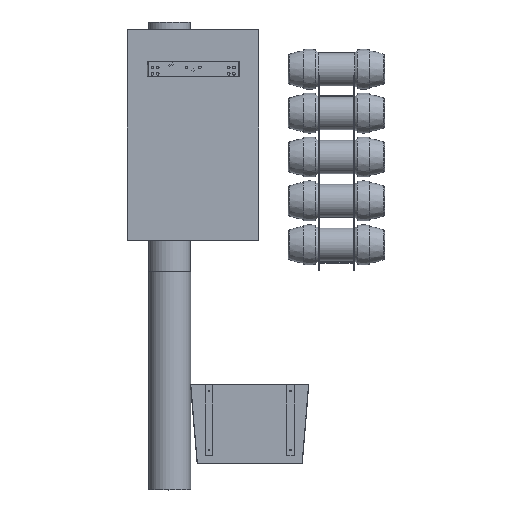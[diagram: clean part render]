
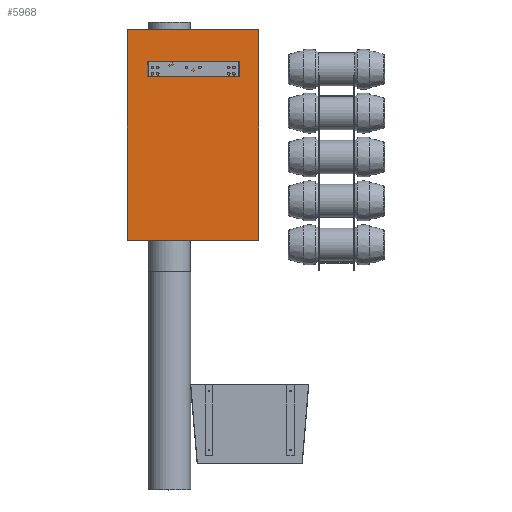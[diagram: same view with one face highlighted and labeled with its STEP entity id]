
A CAD part, top view. The second image highlights one B-rep face of the part: STEP entity #5968.
In plain terms, the highlighted planar face has unit normal (0, 0, 1) as drawn and (-1, 0, 0) by its records, which use the part's own axes.
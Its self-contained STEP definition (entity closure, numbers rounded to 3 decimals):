
#450=PLANE('',#6556);
#682=FACE_OUTER_BOUND('',#1028,.T.);
#1028=EDGE_LOOP('',(#4216,#4217,#4218,#4219));
#1423=LINE('',#8331,#2041);
#1431=LINE('',#8356,#2049);
#1432=LINE('',#8358,#2050);
#1433=LINE('',#8359,#2051);
#2041=VECTOR('',#6947,10.);
#2049=VECTOR('',#6971,10.);
#2050=VECTOR('',#6974,10.);
#2051=VECTOR('',#6975,10.);
#2742=VERTEX_POINT('',#8327);
#2744=VERTEX_POINT('',#8330);
#2750=VERTEX_POINT('',#8349);
#2753=VERTEX_POINT('',#8354);
#3321=EDGE_CURVE('',#2744,#2742,#1423,.T.);
#3333=EDGE_CURVE('',#2753,#2750,#1431,.T.);
#3334=EDGE_CURVE('',#2742,#2750,#1432,.T.);
#3335=EDGE_CURVE('',#2744,#2753,#1433,.T.);
#4216=ORIENTED_EDGE('',*,*,#3321,.T.);
#4217=ORIENTED_EDGE('',*,*,#3334,.T.);
#4218=ORIENTED_EDGE('',*,*,#3333,.F.);
#4219=ORIENTED_EDGE('',*,*,#3335,.F.);
#5968=ADVANCED_FACE('',(#682),#450,.T.);
#6556=AXIS2_PLACEMENT_3D('',#8357,#6972,#6973);
#6947=DIRECTION('',(0.,0.,1.));
#6971=DIRECTION('',(0.,0.,1.));
#6972=DIRECTION('center_axis',(-1.,0.,0.));
#6973=DIRECTION('ref_axis',(0.,0.,1.));
#6974=DIRECTION('',(0.,1.,0.));
#6975=DIRECTION('',(0.,1.,0.));
#8327=CARTESIAN_POINT('',(0.,0.,250.));
#8330=CARTESIAN_POINT('',(0.,0.,-250.));
#8331=CARTESIAN_POINT('',(0.,0.,-250.));
#8349=CARTESIAN_POINT('',(0.,800.,250.));
#8354=CARTESIAN_POINT('',(0.,800.,-250.));
#8356=CARTESIAN_POINT('',(0.,800.,-250.));
#8357=CARTESIAN_POINT('Origin',(0.,0.,-250.));
#8358=CARTESIAN_POINT('',(0.,0.,250.));
#8359=CARTESIAN_POINT('',(0.,0.,-250.));
